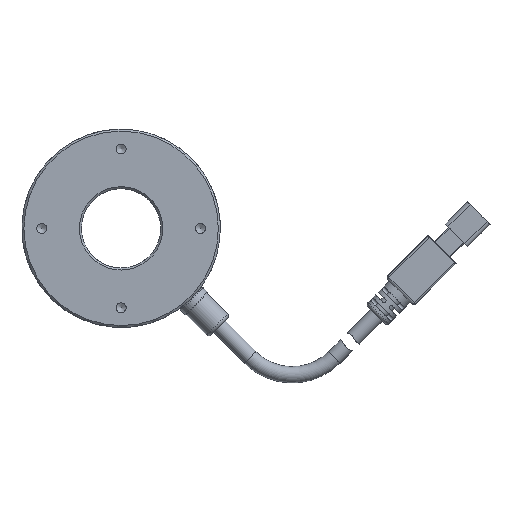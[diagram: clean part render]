
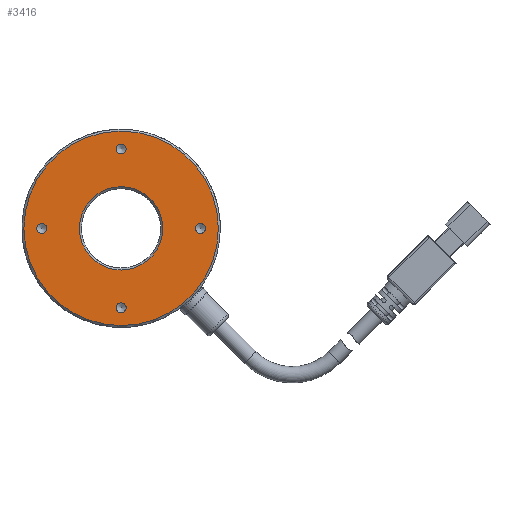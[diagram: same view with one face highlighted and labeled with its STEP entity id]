
A CAD part, front view. The second image highlights one B-rep face of the part: STEP entity #3416.
In plain terms, the highlighted planar face has unit normal (0, -1, 0).
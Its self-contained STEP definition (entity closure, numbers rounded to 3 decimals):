
#221 = CARTESIAN_POINT ( 'NONE',  ( 20., 30.502, -1.25 ) ) ;
#732 = VERTEX_POINT ( 'NONE', #13353 ) ;
#980 = VERTEX_POINT ( 'NONE', #11900 ) ;
#1055 = CARTESIAN_POINT ( 'NONE',  ( 0., 30.502, -20. ) ) ;
#1118 = DIRECTION ( 'NONE',  ( 0., 0., -1. ) ) ;
#1141 = VERTEX_POINT ( 'NONE', #5425 ) ;
#1164 = DIRECTION ( 'NONE',  ( 0., 0., -1. ) ) ;
#1238 = DIRECTION ( 'NONE',  ( 0., 0., 1. ) ) ;
#1356 = ORIENTED_EDGE ( 'NONE', *, *, #5988, .F. ) ;
#1376 = DIRECTION ( 'NONE',  ( 0., 1., 0. ) ) ;
#1462 = CARTESIAN_POINT ( 'NONE',  ( -10., 30.502, 0. ) ) ;
#1490 = DIRECTION ( 'NONE',  ( 0., 0., 1. ) ) ;
#1497 = AXIS2_PLACEMENT_3D ( 'NONE', #13160, #10654, #1118 ) ;
#1614 = EDGE_LOOP ( 'NONE', ( #1356 ) ) ;
#1684 = EDGE_CURVE ( 'NONE', #980, #980, #13915, .T. ) ;
#1845 = FACE_OUTER_BOUND ( 'NONE', #10877, .T. ) ;
#1933 = VERTEX_POINT ( 'NONE', #221 ) ;
#2132 = AXIS2_PLACEMENT_3D ( 'NONE', #13417, #5636, #1238 ) ;
#2176 = FACE_BOUND ( 'NONE', #8454, .T. ) ;
#2188 = ORIENTED_EDGE ( 'NONE', *, *, #10816, .F. ) ;
#2860 = EDGE_LOOP ( 'NONE', ( #13115 ) ) ;
#3012 = EDGE_LOOP ( 'NONE', ( #6327 ) ) ;
#3408 = CARTESIAN_POINT ( 'NONE',  ( -20., 30.502, 0. ) ) ;
#3416 = ADVANCED_FACE ( 'NONE', ( #7686, #1845, #13177, #12677, #2176, #4751 ), #4714, .F. ) ;
#3519 = DIRECTION ( 'NONE',  ( 0., 0., -1. ) ) ;
#3610 = AXIS2_PLACEMENT_3D ( 'NONE', #1055, #5552, #13059 ) ;
#3619 = DIRECTION ( 'NONE',  ( 0., -1., 0. ) ) ;
#4314 = CIRCLE ( 'NONE', #13993, 1.25 ) ;
#4429 = EDGE_LOOP ( 'NONE', ( #14109 ) ) ;
#4601 = CARTESIAN_POINT ( 'NONE',  ( -20., 30.502, -1.25 ) ) ;
#4714 = PLANE ( 'NONE',  #6397 ) ;
#4751 = FACE_BOUND ( 'NONE', #3012, .T. ) ;
#5425 = CARTESIAN_POINT ( 'NONE',  ( 0., 30.502, 18.75 ) ) ;
#5552 = DIRECTION ( 'NONE',  ( 0., -1., 0. ) ) ;
#5636 = DIRECTION ( 'NONE',  ( 0., -1., 0. ) ) ;
#5816 = ORIENTED_EDGE ( 'NONE', *, *, #12264, .T. ) ;
#5988 = EDGE_CURVE ( 'NONE', #1141, #1141, #13061, .T. ) ;
#6327 = ORIENTED_EDGE ( 'NONE', *, *, #1684, .F. ) ;
#6386 = VERTEX_POINT ( 'NONE', #11220 ) ;
#6397 = AXIS2_PLACEMENT_3D ( 'NONE', #1462, #1376, #10323 ) ;
#7686 = FACE_BOUND ( 'NONE', #2860, .T. ) ;
#7750 = DIRECTION ( 'NONE',  ( 0., -1., 0. ) ) ;
#7972 = CARTESIAN_POINT ( 'NONE',  ( 20., 30.502, 0. ) ) ;
#8023 = AXIS2_PLACEMENT_3D ( 'NONE', #7972, #3619, #3519 ) ;
#8177 = CARTESIAN_POINT ( 'NONE',  ( 0., 30.502, 0. ) ) ;
#8454 = EDGE_LOOP ( 'NONE', ( #2188 ) ) ;
#10323 = DIRECTION ( 'NONE',  ( 0., 0., 1. ) ) ;
#10354 = EDGE_CURVE ( 'NONE', #6386, #6386, #13412, .T. ) ;
#10654 = DIRECTION ( 'NONE',  ( 0., -1., 0. ) ) ;
#10709 = CIRCLE ( 'NONE', #8023, 1.25 ) ;
#10816 = EDGE_CURVE ( 'NONE', #1933, #1933, #10709, .T. ) ;
#10877 = EDGE_LOOP ( 'NONE', ( #5816 ) ) ;
#11220 = CARTESIAN_POINT ( 'NONE',  ( 0., 30.502, 10.5 ) ) ;
#11407 = DIRECTION ( 'NONE',  ( 0., 1., 0. ) ) ;
#11900 = CARTESIAN_POINT ( 'NONE',  ( 0., 30.502, -21.25 ) ) ;
#12264 = EDGE_CURVE ( 'NONE', #732, #732, #12686, .T. ) ;
#12677 = FACE_BOUND ( 'NONE', #1614, .T. ) ;
#12686 = CIRCLE ( 'NONE', #2132, 24.5 ) ;
#12719 = EDGE_CURVE ( 'NONE', #13264, #13264, #4314, .T. ) ;
#13059 = DIRECTION ( 'NONE',  ( 0., 0., -1. ) ) ;
#13061 = CIRCLE ( 'NONE', #1497, 1.25 ) ;
#13115 = ORIENTED_EDGE ( 'NONE', *, *, #10354, .T. ) ;
#13160 = CARTESIAN_POINT ( 'NONE',  ( 0., 30.502, 20. ) ) ;
#13177 = FACE_BOUND ( 'NONE', #4429, .T. ) ;
#13264 = VERTEX_POINT ( 'NONE', #4601 ) ;
#13353 = CARTESIAN_POINT ( 'NONE',  ( 0., 30.502, 24.5 ) ) ;
#13412 = CIRCLE ( 'NONE', #13585, 10.5 ) ;
#13417 = CARTESIAN_POINT ( 'NONE',  ( 0., 30.502, 0. ) ) ;
#13585 = AXIS2_PLACEMENT_3D ( 'NONE', #8177, #11407, #1490 ) ;
#13915 = CIRCLE ( 'NONE', #3610, 1.25 ) ;
#13993 = AXIS2_PLACEMENT_3D ( 'NONE', #3408, #7750, #1164 ) ;
#14109 = ORIENTED_EDGE ( 'NONE', *, *, #12719, .F. ) ;
